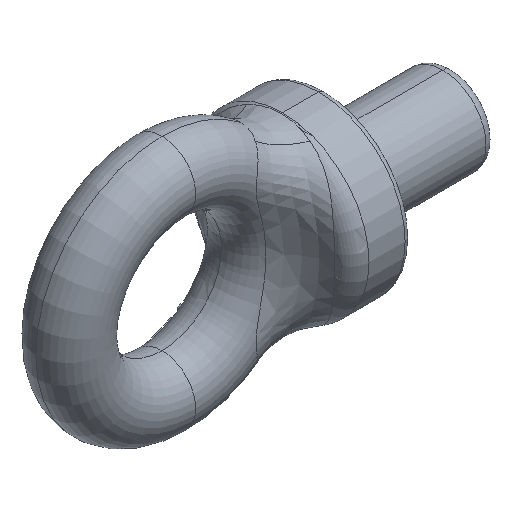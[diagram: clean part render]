
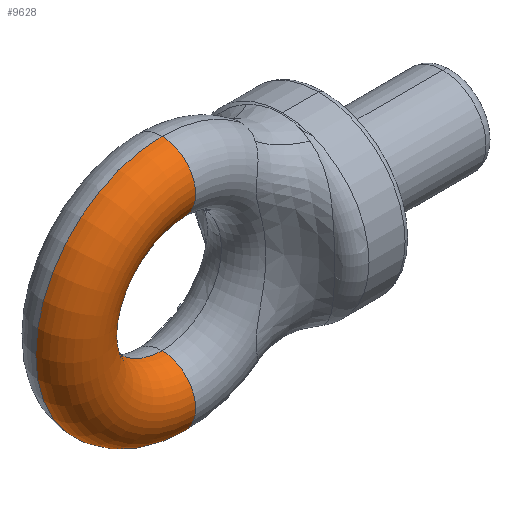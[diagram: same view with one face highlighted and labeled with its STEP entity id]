
A CAD part, isometric view. The second image highlights one B-rep face of the part: STEP entity #9628.
In plain terms, the highlighted toroidal (fillet/blend) face has major radius 15.25 mm and minor radius 5.5 mm.
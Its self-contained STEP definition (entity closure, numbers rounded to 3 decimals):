
#1021 = TOROIDAL_SURFACE ( 'NONE', #1022, 15.25, 5.5 ) ;
#1022 = AXIS2_PLACEMENT_3D ( 'NONE', #1070, #1069, #1068 ) ;
#1025 = FACE_OUTER_BOUND ( 'NONE', #9626, .T. ) ;
#1056 = CARTESIAN_POINT ( 'NONE',  ( 0., 0., -20.75 ) ) ;
#1057 = DIRECTION ( 'NONE',  ( 0., 0., -1. ) ) ;
#1058 = DIRECTION ( 'NONE',  ( 0., -1., 0. ) ) ;
#1059 = CARTESIAN_POINT ( 'NONE',  ( 0., 0., 0. ) ) ;
#1060 = AXIS2_PLACEMENT_3D ( 'NONE', #1059, #1058, #1057 ) ;
#1061 = CIRCLE ( 'NONE', #1060, 20.75 ) ;
#1062 = CARTESIAN_POINT ( 'NONE',  ( 0., 0., 9.75 ) ) ;
#1063 = CARTESIAN_POINT ( 'NONE',  ( 0., 0., 20.75 ) ) ;
#1064 = DIRECTION ( 'NONE',  ( 0., 0., -1. ) ) ;
#1065 = DIRECTION ( 'NONE',  ( 1., 0., 0. ) ) ;
#1066 = AXIS2_PLACEMENT_3D ( 'NONE', #1071, #1065, #1064 ) ;
#1067 = CIRCLE ( 'NONE', #1066, 5.5 ) ;
#1068 = DIRECTION ( 'NONE',  ( 0., 0., -1. ) ) ;
#1069 = DIRECTION ( 'NONE',  ( 0., -1., 0. ) ) ;
#1070 = CARTESIAN_POINT ( 'NONE',  ( 0., 0., 0. ) ) ;
#1071 = CARTESIAN_POINT ( 'NONE',  ( 0., 0., 15.25 ) ) ;
#9626 = EDGE_LOOP ( 'NONE', ( #9629, #9633, #18258, #18293 ) ) ;
#9628 = ADVANCED_FACE ( 'NONE', ( #1025 ), #1021, .T. ) ;
#9629 = ORIENTED_EDGE ( 'NONE', *, *, #9630, .F. ) ;
#9630 = EDGE_CURVE ( 'NONE', #9631, #9632, #1067, .T. ) ;
#9631 = VERTEX_POINT ( 'NONE', #1063 ) ;
#9632 = VERTEX_POINT ( 'NONE', #1062 ) ;
#9633 = ORIENTED_EDGE ( 'NONE', *, *, #9634, .T. ) ;
#9634 = EDGE_CURVE ( 'NONE', #9631, #9635, #1061, .T. ) ;
#9635 = VERTEX_POINT ( 'NONE', #1056 ) ;
#12608 = CARTESIAN_POINT ( 'NONE',  ( 0., 0., -9.75 ) ) ;
#12850 = DIRECTION ( 'NONE',  ( 0., 0., 1. ) ) ;
#12851 = DIRECTION ( 'NONE',  ( -1., 0., 0. ) ) ;
#12852 = CARTESIAN_POINT ( 'NONE',  ( 0., 0., -15.25 ) ) ;
#12853 = AXIS2_PLACEMENT_3D ( 'NONE', #12852, #12851, #12850 ) ;
#12854 = CIRCLE ( 'NONE', #12853, 5.5 ) ;
#12856 = DIRECTION ( 'NONE',  ( 0., 0., -1. ) ) ;
#12857 = DIRECTION ( 'NONE',  ( 0., -1., 0. ) ) ;
#12858 = CARTESIAN_POINT ( 'NONE',  ( 0., 0., 0. ) ) ;
#12859 = AXIS2_PLACEMENT_3D ( 'NONE', #12858, #12857, #12856 ) ;
#12860 = CIRCLE ( 'NONE', #12859, 9.75 ) ;
#18258 = ORIENTED_EDGE ( 'NONE', *, *, #18294, .T. ) ;
#18291 = VERTEX_POINT ( 'NONE', #12608 ) ;
#18292 = EDGE_CURVE ( 'NONE', #9632, #18291, #12860, .T. ) ;
#18293 = ORIENTED_EDGE ( 'NONE', *, *, #18292, .F. ) ;
#18294 = EDGE_CURVE ( 'NONE', #9635, #18291, #12854, .T. ) ;
